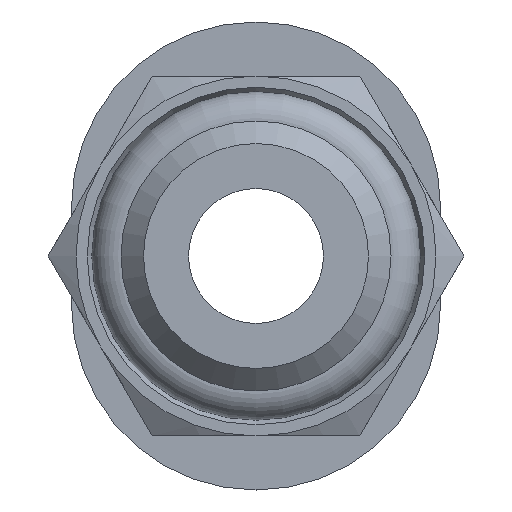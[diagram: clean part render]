
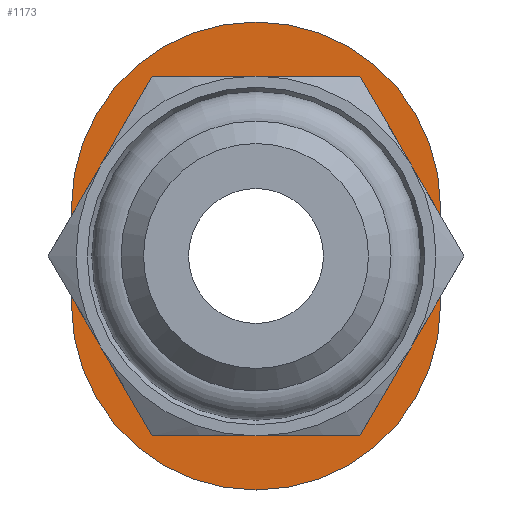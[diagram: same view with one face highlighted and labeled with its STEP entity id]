
A CAD part, front view. The second image highlights one B-rep face of the part: STEP entity #1173.
In plain terms, the highlighted planar face has unit normal (0, -1, 0).
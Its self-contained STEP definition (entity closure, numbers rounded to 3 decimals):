
#1121=CARTESIAN_POINT('',(0.,16.15,0.));
#1122=DIRECTION('',(0.0,1.0,0.0));
#1123=DIRECTION('',(0.0,0.0,1.0));
#1124=AXIS2_PLACEMENT_3D('',#1121,#1122,#1123);
#1125=PLANE('',#1124);
#1126=CARTESIAN_POINT('',(-4.1,16.15,1.1));
#1127=VERTEX_POINT('',#1126);
#1128=CARTESIAN_POINT('',(-4.1,16.15,-1.1));
#1129=VERTEX_POINT('',#1128);
#1130=CARTESIAN_POINT('',(-4.1,16.15,1.1));
#1131=DIRECTION('',(0.0,0.0,-1.0));
#1132=VECTOR('',#1131,2.2);
#1133=LINE('',#1130,#1132);
#1134=EDGE_CURVE('',#1127,#1129,#1133,.T.);
#1135=ORIENTED_EDGE('',*,*,#1134,.T.);
#1136=CARTESIAN_POINT('',(4.1,16.15,-1.1));
#1137=VERTEX_POINT('',#1136);
#1138=CARTESIAN_POINT('',(0.,16.15,-1.1));
#1139=DIRECTION('',(0.0,-1.0,0.0));
#1140=DIRECTION('',(0.0,0.0,1.0));
#1141=AXIS2_PLACEMENT_3D('',#1138,#1139,#1140);
#1142=CIRCLE('',#1141,4.1);
#1143=EDGE_CURVE('',#1129,#1137,#1142,.T.);
#1144=ORIENTED_EDGE('',*,*,#1143,.T.);
#1145=CARTESIAN_POINT('',(4.1,16.15,1.1));
#1146=VERTEX_POINT('',#1145);
#1147=CARTESIAN_POINT('',(4.1,16.15,-1.1));
#1148=DIRECTION('',(0.0,0.0,1.0));
#1149=VECTOR('',#1148,2.2);
#1150=LINE('',#1147,#1149);
#1151=EDGE_CURVE('',#1137,#1146,#1150,.T.);
#1152=ORIENTED_EDGE('',*,*,#1151,.T.);
#1153=CARTESIAN_POINT('',(0.,16.15,1.1));
#1154=DIRECTION('',(0.0,-1.0,0.0));
#1155=DIRECTION('',(0.0,0.0,-1.0));
#1156=AXIS2_PLACEMENT_3D('',#1153,#1154,#1155);
#1157=CIRCLE('',#1156,4.1);
#1158=EDGE_CURVE('',#1146,#1127,#1157,.T.);
#1159=ORIENTED_EDGE('',*,*,#1158,.T.);
#1160=EDGE_LOOP('',(#1135,#1144,#1152,#1159));
#1161=FACE_OUTER_BOUND('',#1160,.T.);
#1162=CARTESIAN_POINT('',(-2.75,16.15,0.0));
#1163=VERTEX_POINT('',#1162);
#1164=CARTESIAN_POINT('',(0.0,16.15,0.0));
#1165=DIRECTION('',(0.0,1.0,0.0));
#1166=DIRECTION('',(-1.0,0.0,0.0));
#1167=AXIS2_PLACEMENT_3D('',#1164,#1165,#1166);
#1168=CIRCLE('',#1167,2.75);
#1169=EDGE_CURVE('',#1163,#1163,#1168,.T.);
#1170=ORIENTED_EDGE('',*,*,#1169,.T.);
#1171=EDGE_LOOP('',(#1170));
#1172=FACE_BOUND('',#1171,.T.);
#1173=ADVANCED_FACE('',(#1161,#1172),#1125,.F.);
